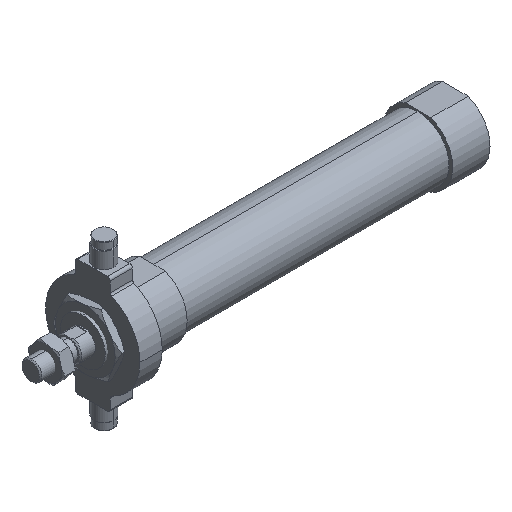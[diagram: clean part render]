
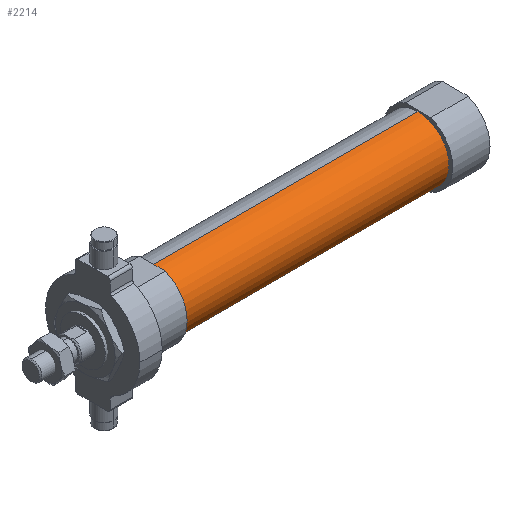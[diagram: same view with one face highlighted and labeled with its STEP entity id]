
A CAD part, isometric view. The second image highlights one B-rep face of the part: STEP entity #2214.
In plain terms, the highlighted cylindrical face has radius 12.5 mm (diameter 25 mm), a partial arc.
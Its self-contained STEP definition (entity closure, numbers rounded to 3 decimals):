
#175 = VERTEX_POINT ( 'NONE', #4113 ) ;
#178 = DIRECTION ( 'NONE',  ( -1., 0., 0. ) ) ;
#341 = CARTESIAN_POINT ( 'NONE',  ( -6.469, 0., -12.5 ) ) ;
#361 = DIRECTION ( 'NONE',  ( 0., 0., 1. ) ) ;
#446 = DIRECTION ( 'NONE',  ( -1., 0., 0. ) ) ;
#503 = DIRECTION ( 'NONE',  ( 0., 0., 1. ) ) ;
#542 = VERTEX_POINT ( 'NONE', #2016 ) ;
#569 = CARTESIAN_POINT ( 'NONE',  ( 156., 0., -12.5 ) ) ;
#804 = LINE ( 'NONE', #2120, #3009 ) ;
#902 = CIRCLE ( 'NONE', #3035, 12.5 ) ;
#922 = ORIENTED_EDGE ( 'NONE', *, *, #2384, .T. ) ;
#1226 = CYLINDRICAL_SURFACE ( 'NONE', #3745, 12.5 ) ;
#1613 = EDGE_LOOP ( 'NONE', ( #3617, #2625, #922, #1649 ) ) ;
#1649 = ORIENTED_EDGE ( 'NONE', *, *, #4056, .F. ) ;
#1670 = EDGE_CURVE ( 'NONE', #2673, #175, #2590, .T. ) ;
#1731 = CARTESIAN_POINT ( 'NONE',  ( -6.469, 0., 0. ) ) ;
#1784 = CARTESIAN_POINT ( 'NONE',  ( 156., 0., 0. ) ) ;
#1863 = VERTEX_POINT ( 'NONE', #3262 ) ;
#2016 = CARTESIAN_POINT ( 'NONE',  ( 49., 0., -12.5 ) ) ;
#2120 = CARTESIAN_POINT ( 'NONE',  ( -6.469, 0., 12.5 ) ) ;
#2180 = LINE ( 'NONE', #341, #2231 ) ;
#2214 = ADVANCED_FACE ( 'NONE', ( #3414 ), #1226, .T. ) ;
#2231 = VECTOR ( 'NONE', #3707, 1000. ) ;
#2384 = EDGE_CURVE ( 'NONE', #175, #1863, #804, .T. ) ;
#2440 = DIRECTION ( 'NONE',  ( -1., 0., 0. ) ) ;
#2457 = CARTESIAN_POINT ( 'NONE',  ( 49., 0., 0. ) ) ;
#2590 = CIRCLE ( 'NONE', #2650, 12.5 ) ;
#2625 = ORIENTED_EDGE ( 'NONE', *, *, #1670, .T. ) ;
#2650 = AXIS2_PLACEMENT_3D ( 'NONE', #1784, #446, #2777 ) ;
#2673 = VERTEX_POINT ( 'NONE', #569 ) ;
#2777 = DIRECTION ( 'NONE',  ( 0., 0., 1. ) ) ;
#3009 = VECTOR ( 'NONE', #2440, 1000. ) ;
#3035 = AXIS2_PLACEMENT_3D ( 'NONE', #2457, #178, #503 ) ;
#3262 = CARTESIAN_POINT ( 'NONE',  ( 49., 0., 12.5 ) ) ;
#3357 = EDGE_CURVE ( 'NONE', #2673, #542, #2180, .T. ) ;
#3378 = DIRECTION ( 'NONE',  ( -1., 0., 0. ) ) ;
#3414 = FACE_OUTER_BOUND ( 'NONE', #1613, .T. ) ;
#3617 = ORIENTED_EDGE ( 'NONE', *, *, #3357, .F. ) ;
#3707 = DIRECTION ( 'NONE',  ( -1., 0., 0. ) ) ;
#3745 = AXIS2_PLACEMENT_3D ( 'NONE', #1731, #3378, #361 ) ;
#4056 = EDGE_CURVE ( 'NONE', #542, #1863, #902, .T. ) ;
#4113 = CARTESIAN_POINT ( 'NONE',  ( 156., 0., 12.5 ) ) ;
